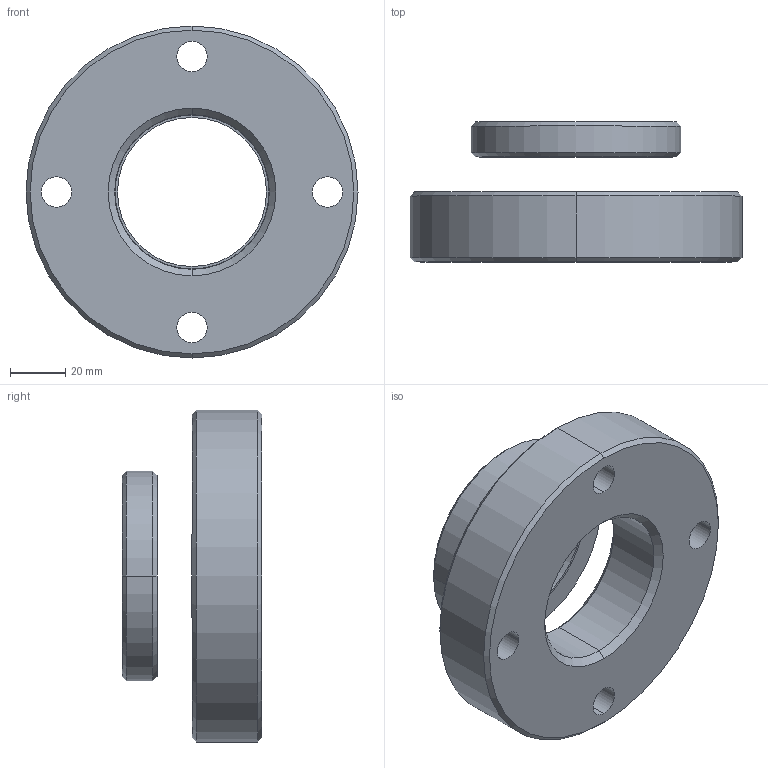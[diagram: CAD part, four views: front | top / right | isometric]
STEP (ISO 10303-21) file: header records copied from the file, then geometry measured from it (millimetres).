
FILE_DESCRIPTION((''),'2;1');
FILE_NAME('BAD172_ASM','2016-12-14T',('mike.ward'),(''),'CREO PARAMETRIC BY PTC INC, 2015290','CREO PARAMETRIC BY PTC INC, 2015290','');
FILE_SCHEMA(('CONFIG_CONTROL_DESIGN'));
Products named in the file (3): BSS5905D; BSS5909D; BAD172_ASM
Assembly tree (2 placements, depth 2):
  BAD172_ASM
    BSS5905D
    BSS5909D
Bounding box: 120.5 x 50.8 x 120.5 mm (x, y, z)
Volume: 237712.4 mm3; surface area: 46113.6 mm2
Topology: 2 solids, 3 shells, 54 faces, 122 edges, 74 vertices
Faces by surface type: cylinder 30, cone 16, plane 8
Entity records: 1628 total; most frequent: DIRECTION 312, CARTESIAN_POINT 253, ORIENTED_EDGE 232, AXIS2_PLACEMENT_3D 133, EDGE_CURVE 118, VERTEX_POINT 74, EDGE_LOOP 72, CIRCLE 72
